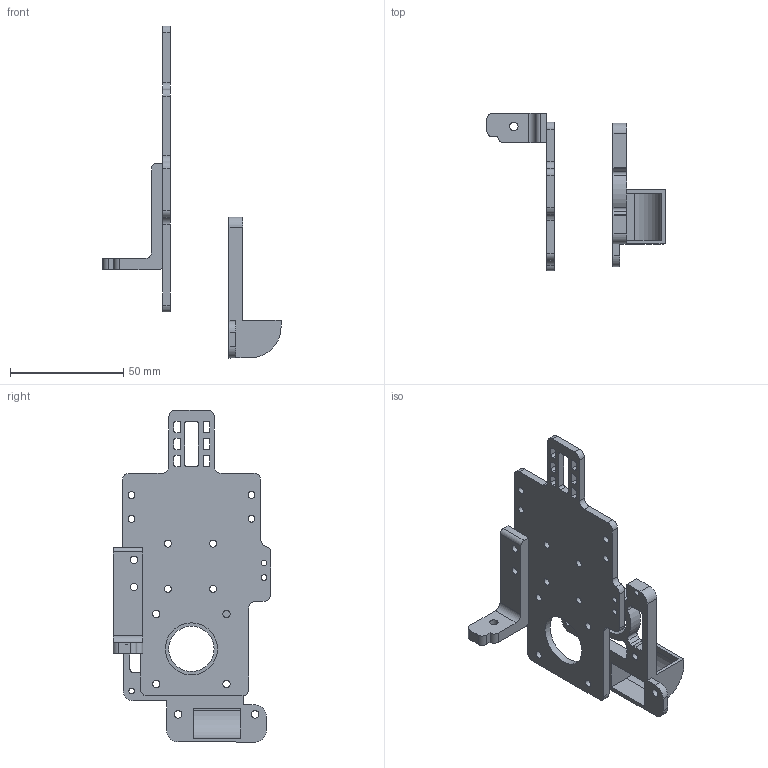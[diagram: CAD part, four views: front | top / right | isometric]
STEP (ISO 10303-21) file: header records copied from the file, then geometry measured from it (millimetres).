
FILE_DESCRIPTION(/* description */ (''),/* implementation_level */ '2;1');
FILE_NAME(/* name */ 'C:/Users/talry/3D Objects/Worley/Titan Aero Mount.step',/* time_stamp */ '2019-11-19T14:55:20-06:00',/* author */ (''),/* organization */ (''),/* preprocessor_version */ 'ST-DEVELOPER v18',/* originating_system */ 'Autodesk Translation Framework v8.12.0.6',/* authorisation */ '');
FILE_SCHEMA (('AUTOMOTIVE_DESIGN { 1 0 10303 214 3 1 1 }'));
Length unit declared in the file: millimetre
Products named in the file (2): Titan Aero Mount; Part_Cooling_Rear_Mount v1
Assembly tree (1 placements, depth 2):
  Titan Aero Mount
    Part_Cooling_Rear_Mount v1
Bounding box: 78.65 x 69.61 x 146.57 mm (x, y, z)
Volume: 31240.1 mm3; surface area: 24931.6 mm2
Topology: 3 solids, 3 shells, 210 faces, 629 edges, 429 vertices
Faces by surface type: cylinder 112, plane 98
Full cylindrical faces by diameter (mm): 2.459 x2, 2.5 x2, 3 x4, 3.125 x4, 3.25 x8, 3.4 x5, 3.75 x1, 5.25 x1, 5.3 x1, 6.5 x3, 20 x1, 23 x1
Entity records: 7441 total; most frequent: DIRECTION 1308, CARTESIAN_POINT 1271, ORIENTED_EDGE 1258, EDGE_CURVE 629, AXIS2_PLACEMENT_3D 466, VERTEX_POINT 429, LINE 376, VECTOR 376
